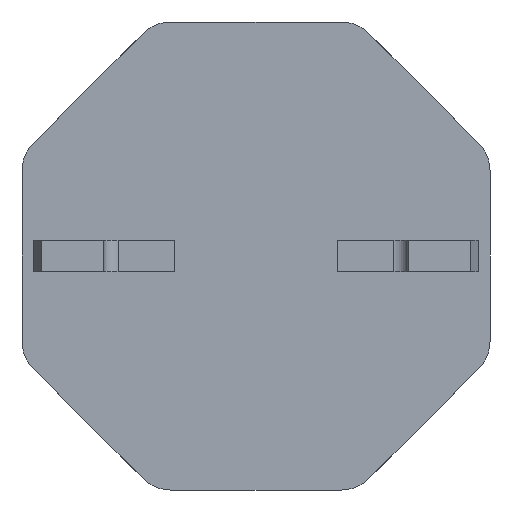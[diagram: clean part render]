
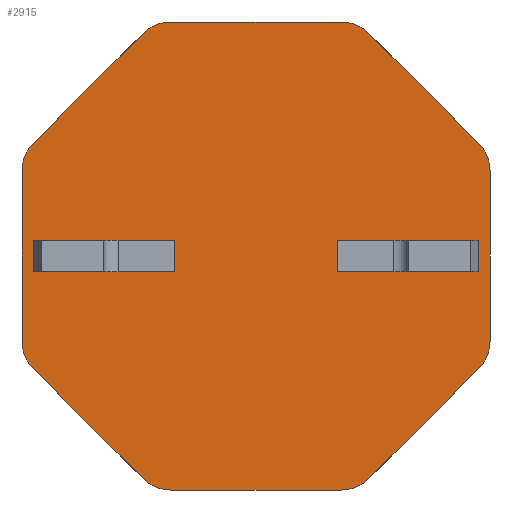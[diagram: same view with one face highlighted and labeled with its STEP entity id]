
A CAD part, front view. The second image highlights one B-rep face of the part: STEP entity #2915.
In plain terms, the highlighted planar face has unit normal (0, -1, 0).
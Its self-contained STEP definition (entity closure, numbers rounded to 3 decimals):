
#1=CARTESIAN_POINT('',(-1.093,0.,-2.5));
#2=DIRECTION('',(0.,1.,0.));
#3=DIRECTION('',(0.,0.,-1.));
#4=AXIS2_PLACEMENT_3D('',#1,#2,#3);
#6=DIRECTION('',(-0.707,0.,0.707));
#7=VECTOR('',#6,1.99);
#8=CARTESIAN_POINT('',(-1.446,0.,-2.854));
#9=LINE('',#8,#7);
#10=CARTESIAN_POINT('',(-2.5,0.,-1.093));
#11=DIRECTION('',(0.,1.,0.));
#12=DIRECTION('',(-0.707,0.,-0.707));
#13=AXIS2_PLACEMENT_3D('',#10,#11,#12);
#15=CARTESIAN_POINT('',(-2.5,0.,1.093));
#16=DIRECTION('',(0.,1.,0.));
#17=DIRECTION('',(-1.,0.,0.));
#18=AXIS2_PLACEMENT_3D('',#15,#16,#17);
#20=DIRECTION('',(0.707,0.,0.707));
#21=VECTOR('',#20,1.99);
#22=CARTESIAN_POINT('',(-2.854,0.,1.446));
#23=LINE('',#22,#21);
#24=CARTESIAN_POINT('',(-1.093,0.,2.5));
#25=DIRECTION('',(0.,1.,0.));
#26=DIRECTION('',(-0.707,0.,0.707));
#27=AXIS2_PLACEMENT_3D('',#24,#25,#26);
#29=CARTESIAN_POINT('',(1.093,0.,2.5));
#30=DIRECTION('',(0.,1.,0.));
#31=DIRECTION('',(0.,0.,1.));
#32=AXIS2_PLACEMENT_3D('',#29,#30,#31);
#34=DIRECTION('',(0.707,0.,-0.707));
#35=VECTOR('',#34,1.99);
#36=CARTESIAN_POINT('',(1.446,0.,2.854));
#37=LINE('',#36,#35);
#38=CARTESIAN_POINT('',(2.5,0.,1.093));
#39=DIRECTION('',(0.,1.,0.));
#40=DIRECTION('',(0.707,0.,0.707));
#41=AXIS2_PLACEMENT_3D('',#38,#39,#40);
#43=CARTESIAN_POINT('',(2.5,0.,-1.093));
#44=DIRECTION('',(0.,1.,0.));
#45=DIRECTION('',(1.,0.,0.));
#46=AXIS2_PLACEMENT_3D('',#43,#44,#45);
#48=DIRECTION('',(-0.707,0.,-0.707));
#49=VECTOR('',#48,1.99);
#50=CARTESIAN_POINT('',(2.854,0.,-1.446));
#51=LINE('',#50,#49);
#52=CARTESIAN_POINT('',(1.093,0.,-2.5));
#53=DIRECTION('',(0.,1.,0.));
#54=DIRECTION('',(0.707,0.,-0.707));
#55=AXIS2_PLACEMENT_3D('',#52,#53,#54);
#127=DIRECTION('',(0.,0.,-1.));
#128=VECTOR('',#127,2.186);
#129=CARTESIAN_POINT('',(-3.,0.,1.093));
#130=LINE('',#129,#128);
#147=DIRECTION('',(-1.,0.,0.));
#148=VECTOR('',#147,2.186);
#149=CARTESIAN_POINT('',(1.093,0.,3.));
#150=LINE('',#149,#148);
#171=DIRECTION('',(0.,0.,1.));
#172=VECTOR('',#171,2.186);
#173=CARTESIAN_POINT('',(3.,0.,-1.093));
#174=LINE('',#173,#172);
#199=DIRECTION('',(1.,0.,0.));
#200=VECTOR('',#199,2.186);
#201=CARTESIAN_POINT('',(-1.093,0.,-3.));
#202=LINE('',#201,#200);
#1493=DIRECTION('',(-1.,0.,0.));
#1494=VECTOR('',#1493,0.62);
#1495=CARTESIAN_POINT('',(2.85,0.,-0.2));
#1496=LINE('',#1495,#1494);
#1553=DIRECTION('',(0.,0.,1.));
#1554=VECTOR('',#1553,0.4);
#1555=CARTESIAN_POINT('',(2.23,0.,-0.2));
#1556=LINE('',#1555,#1554);
#1557=DIRECTION('',(1.,0.,0.));
#1558=VECTOR('',#1557,0.62);
#1559=CARTESIAN_POINT('',(2.23,0.,0.2));
#1560=LINE('',#1559,#1558);
#1617=DIRECTION('',(0.,0.,-1.));
#1618=VECTOR('',#1617,0.4);
#1619=CARTESIAN_POINT('',(2.85,0.,0.2));
#1620=LINE('',#1619,#1618);
#1833=DIRECTION('',(-1.,0.,0.));
#1834=VECTOR('',#1833,0.62);
#1835=CARTESIAN_POINT('',(-2.23,0.,-0.2));
#1836=LINE('',#1835,#1834);
#1893=DIRECTION('',(0.,0.,1.));
#1894=VECTOR('',#1893,0.4);
#1895=CARTESIAN_POINT('',(-2.85,0.,-0.2));
#1896=LINE('',#1895,#1894);
#1901=DIRECTION('',(1.,0.,0.));
#1902=VECTOR('',#1901,0.62);
#1903=CARTESIAN_POINT('',(-2.85,0.,0.2));
#1904=LINE('',#1903,#1902);
#1965=DIRECTION('',(0.,0.,-1.));
#1966=VECTOR('',#1965,0.4);
#1967=CARTESIAN_POINT('',(-2.23,0.,0.2));
#1968=LINE('',#1967,#1966);
#2173=CARTESIAN_POINT('',(-1.093,0.,-3.));
#2174=CARTESIAN_POINT('',(-1.446,0.,-2.854));
#2175=VERTEX_POINT('',#2173);
#2176=VERTEX_POINT('',#2174);
#2177=CARTESIAN_POINT('',(-2.854,0.,-1.446));
#2178=VERTEX_POINT('',#2177);
#2179=CARTESIAN_POINT('',(-3.,0.,-1.093));
#2180=VERTEX_POINT('',#2179);
#2181=CARTESIAN_POINT('',(-3.,0.,1.093));
#2182=CARTESIAN_POINT('',(-2.854,0.,1.446));
#2183=VERTEX_POINT('',#2181);
#2184=VERTEX_POINT('',#2182);
#2185=CARTESIAN_POINT('',(-1.446,0.,2.854));
#2186=VERTEX_POINT('',#2185);
#2187=CARTESIAN_POINT('',(-1.093,0.,3.));
#2188=VERTEX_POINT('',#2187);
#2189=CARTESIAN_POINT('',(1.093,0.,3.));
#2190=CARTESIAN_POINT('',(1.446,0.,2.854));
#2191=VERTEX_POINT('',#2189);
#2192=VERTEX_POINT('',#2190);
#2193=CARTESIAN_POINT('',(2.854,0.,1.446));
#2194=VERTEX_POINT('',#2193);
#2195=CARTESIAN_POINT('',(3.,0.,1.093));
#2196=VERTEX_POINT('',#2195);
#2197=CARTESIAN_POINT('',(3.,0.,-1.093));
#2198=CARTESIAN_POINT('',(2.854,0.,-1.446));
#2199=VERTEX_POINT('',#2197);
#2200=VERTEX_POINT('',#2198);
#2201=CARTESIAN_POINT('',(1.446,0.,-2.854));
#2202=VERTEX_POINT('',#2201);
#2203=CARTESIAN_POINT('',(1.093,0.,-3.));
#2204=VERTEX_POINT('',#2203);
#2205=CARTESIAN_POINT('',(2.85,0.,-0.2));
#2206=CARTESIAN_POINT('',(2.23,0.,-0.2));
#2207=VERTEX_POINT('',#2205);
#2208=VERTEX_POINT('',#2206);
#2209=CARTESIAN_POINT('',(2.23,0.,0.2));
#2210=VERTEX_POINT('',#2209);
#2211=CARTESIAN_POINT('',(-2.23,0.,-0.2));
#2212=CARTESIAN_POINT('',(-2.85,0.,-0.2));
#2213=VERTEX_POINT('',#2211);
#2214=VERTEX_POINT('',#2212);
#2215=CARTESIAN_POINT('',(-2.85,0.,0.2));
#2216=VERTEX_POINT('',#2215);
#2480=CARTESIAN_POINT('',(2.85,0.,0.2));
#2481=VERTEX_POINT('',#2480);
#2582=CARTESIAN_POINT('',(-2.23,0.,0.2));
#2583=VERTEX_POINT('',#2582);
#2856=CARTESIAN_POINT('',(0.,0.,0.));
#2857=DIRECTION('',(0.,1.,0.));
#2858=DIRECTION('',(1.,0.,0.));
#2859=AXIS2_PLACEMENT_3D('',#2856,#2857,#2858);
#2860=PLANE('',#2859);
#2862=ORIENTED_EDGE('',*,*,#2861,.T.);
#2864=ORIENTED_EDGE('',*,*,#2863,.T.);
#2866=ORIENTED_EDGE('',*,*,#2865,.T.);
#2868=ORIENTED_EDGE('',*,*,#2867,.F.);
#2870=ORIENTED_EDGE('',*,*,#2869,.T.);
#2872=ORIENTED_EDGE('',*,*,#2871,.T.);
#2874=ORIENTED_EDGE('',*,*,#2873,.T.);
#2876=ORIENTED_EDGE('',*,*,#2875,.F.);
#2878=ORIENTED_EDGE('',*,*,#2877,.T.);
#2880=ORIENTED_EDGE('',*,*,#2879,.T.);
#2882=ORIENTED_EDGE('',*,*,#2881,.T.);
#2884=ORIENTED_EDGE('',*,*,#2883,.F.);
#2886=ORIENTED_EDGE('',*,*,#2885,.T.);
#2888=ORIENTED_EDGE('',*,*,#2887,.T.);
#2890=ORIENTED_EDGE('',*,*,#2889,.T.);
#2892=ORIENTED_EDGE('',*,*,#2891,.F.);
#2893=EDGE_LOOP('',(#2862,#2864,#2866,#2868,#2870,#2872,#2874,#2876,#2878,#2880,
#2882,#2884,#2886,#2888,#2890,#2892));
#2894=FACE_OUTER_BOUND('',#2893,.F.);
#2896=ORIENTED_EDGE('',*,*,#2895,.F.);
#2898=ORIENTED_EDGE('',*,*,#2897,.F.);
#2900=ORIENTED_EDGE('',*,*,#2899,.F.);
#2902=ORIENTED_EDGE('',*,*,#2901,.F.);
#2903=EDGE_LOOP('',(#2896,#2898,#2900,#2902));
#2904=FACE_BOUND('',#2903,.F.);
#2906=ORIENTED_EDGE('',*,*,#2905,.F.);
#2908=ORIENTED_EDGE('',*,*,#2907,.F.);
#2910=ORIENTED_EDGE('',*,*,#2909,.F.);
#2912=ORIENTED_EDGE('',*,*,#2911,.F.);
#2913=EDGE_LOOP('',(#2906,#2908,#2910,#2912));
#2914=FACE_BOUND('',#2913,.F.);
#5=CIRCLE('',#4,0.5);
#14=CIRCLE('',#13,0.5);
#19=CIRCLE('',#18,0.5);
#28=CIRCLE('',#27,0.5);
#33=CIRCLE('',#32,0.5);
#42=CIRCLE('',#41,0.5);
#47=CIRCLE('',#46,0.5);
#56=CIRCLE('',#55,0.5);
#2861=EDGE_CURVE('',#2175,#2176,#5,.T.);
#2863=EDGE_CURVE('',#2176,#2178,#9,.T.);
#2865=EDGE_CURVE('',#2178,#2180,#14,.T.);
#2867=EDGE_CURVE('',#2183,#2180,#130,.T.);
#2869=EDGE_CURVE('',#2183,#2184,#19,.T.);
#2871=EDGE_CURVE('',#2184,#2186,#23,.T.);
#2873=EDGE_CURVE('',#2186,#2188,#28,.T.);
#2875=EDGE_CURVE('',#2191,#2188,#150,.T.);
#2877=EDGE_CURVE('',#2191,#2192,#33,.T.);
#2879=EDGE_CURVE('',#2192,#2194,#37,.T.);
#2881=EDGE_CURVE('',#2194,#2196,#42,.T.);
#2883=EDGE_CURVE('',#2199,#2196,#174,.T.);
#2885=EDGE_CURVE('',#2199,#2200,#47,.T.);
#2887=EDGE_CURVE('',#2200,#2202,#51,.T.);
#2889=EDGE_CURVE('',#2202,#2204,#56,.T.);
#2891=EDGE_CURVE('',#2175,#2204,#202,.T.);
#2895=EDGE_CURVE('',#2207,#2208,#1496,.T.);
#2897=EDGE_CURVE('',#2481,#2207,#1620,.T.);
#2899=EDGE_CURVE('',#2210,#2481,#1560,.T.);
#2901=EDGE_CURVE('',#2208,#2210,#1556,.T.);
#2905=EDGE_CURVE('',#2213,#2214,#1836,.T.);
#2907=EDGE_CURVE('',#2583,#2213,#1968,.T.);
#2909=EDGE_CURVE('',#2216,#2583,#1904,.T.);
#2911=EDGE_CURVE('',#2214,#2216,#1896,.T.);
#2915=ADVANCED_FACE('',(#2894,#2904,#2914),#2860,.F.);
